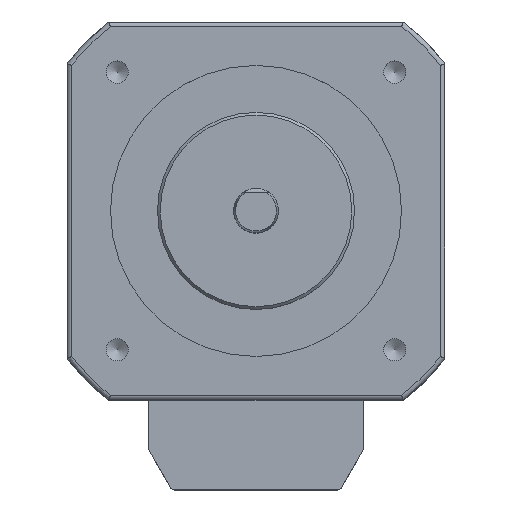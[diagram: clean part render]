
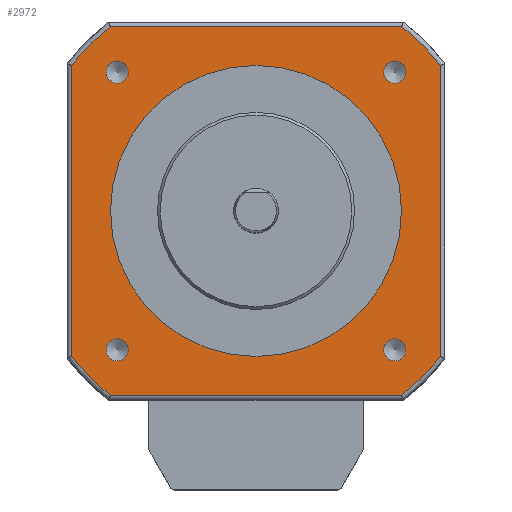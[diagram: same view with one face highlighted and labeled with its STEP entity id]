
A CAD part, top view. The second image highlights one B-rep face of the part: STEP entity #2972.
In plain terms, the highlighted planar face has unit normal (0, 0, 1).
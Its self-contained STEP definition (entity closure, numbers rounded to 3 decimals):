
#2243=CARTESIAN_POINT('',(0.,16.25,40.));
#2244=VERTEX_POINT('',#2243);
#2245=CARTESIAN_POINT('',(0.,0.,40.));
#2246=DIRECTION('',(0.,1.,-0.));
#2247=DIRECTION('',(0.,0.,1.));
#2248=AXIS2_PLACEMENT_3D('',#2245,#2247,#2246);
#2249=CIRCLE('',#2248,16.25);
#2250=EDGE_CURVE('',#2244,#2244,#2249,.T.);
#2512=CARTESIAN_POINT('',(16.268,-20.601,40.));
#2513=VERTEX_POINT('',#2512);
#2521=CARTESIAN_POINT('',(-16.269,-20.6,40.));
#2522=VERTEX_POINT('',#2521);
#2523=CARTESIAN_POINT('',(-16.269,-20.6,40.));
#2524=DIRECTION('',(1.,0.,0.));
#2525=VECTOR('',#2524,32.537);
#2526=LINE('',#2523,#2525);
#2527=EDGE_CURVE('',#2522,#2513,#2526,.T.);
#2585=CARTESIAN_POINT('',(20.6,-16.269,40.));
#2586=VERTEX_POINT('',#2585);
#2594=CARTESIAN_POINT('',(16.268,-20.601,40.));
#2595=CARTESIAN_POINT('',(16.342,-20.542,40.));
#2596=CARTESIAN_POINT('',(16.695,-20.261,40.));
#2597=CARTESIAN_POINT('',(17.311,-19.738,40.));
#2598=CARTESIAN_POINT('',(17.979,-19.131,40.));
#2599=CARTESIAN_POINT('',(18.563,-18.563,40.));
#2600=CARTESIAN_POINT('',(19.131,-17.979,40.));
#2601=CARTESIAN_POINT('',(19.738,-17.311,40.));
#2602=CARTESIAN_POINT('',(20.261,-16.695,40.));
#2603=CARTESIAN_POINT('',(20.542,-16.342,40.));
#2604=CARTESIAN_POINT('',(20.6,-16.269,40.));
#2605=B_SPLINE_CURVE_WITH_KNOTS('',2,(#2594,#2595,#2596,#2597,#2598,#2599,#2600,#2601,#2602,#2603,#2604),.UNSPECIFIED.,.F.,.U.,(3,1,1,1,1,1,1,1,1,3),(0.105,0.129,0.221,0.337,0.453,0.547,0.663,0.779,0.871,0.895),.UNSPECIFIED.);
#2606=EDGE_CURVE('',#2513,#2586,#2605,.T.);
#2618=CARTESIAN_POINT('',(20.601,16.267,40.));
#2619=VERTEX_POINT('',#2618);
#2627=CARTESIAN_POINT('',(20.6,-16.269,40.));
#2628=DIRECTION('',(0.,1.,0.));
#2629=VECTOR('',#2628,32.536);
#2630=LINE('',#2627,#2629);
#2631=EDGE_CURVE('',#2586,#2619,#2630,.T.);
#2687=CARTESIAN_POINT('',(16.269,20.6,40.));
#2688=VERTEX_POINT('',#2687);
#2696=CARTESIAN_POINT('',(20.602,16.267,40.));
#2697=CARTESIAN_POINT('',(20.543,16.341,40.));
#2698=CARTESIAN_POINT('',(20.261,16.695,40.));
#2699=CARTESIAN_POINT('',(19.738,17.311,40.));
#2700=CARTESIAN_POINT('',(19.131,17.979,40.));
#2701=CARTESIAN_POINT('',(18.563,18.563,40.));
#2702=CARTESIAN_POINT('',(17.979,19.131,40.));
#2703=CARTESIAN_POINT('',(17.311,19.738,40.));
#2704=CARTESIAN_POINT('',(16.695,20.261,40.));
#2705=CARTESIAN_POINT('',(16.342,20.542,40.));
#2706=CARTESIAN_POINT('',(16.269,20.6,40.));
#2707=B_SPLINE_CURVE_WITH_KNOTS('',2,(#2696,#2697,#2698,#2699,#2700,#2701,#2702,#2703,#2704,#2705,#2706),.UNSPECIFIED.,.F.,.U.,(3,1,1,1,1,1,1,1,1,3),(0.104,0.129,0.221,0.337,0.453,0.547,0.663,0.779,0.871,0.895),.UNSPECIFIED.);
#2708=EDGE_CURVE('',#2619,#2688,#2707,.T.);
#2720=CARTESIAN_POINT('',(-16.267,20.601,40.));
#2721=VERTEX_POINT('',#2720);
#2729=CARTESIAN_POINT('',(16.269,20.6,40.));
#2730=DIRECTION('',(-1.,0.,0.));
#2731=VECTOR('',#2730,32.536);
#2732=LINE('',#2729,#2731);
#2733=EDGE_CURVE('',#2688,#2721,#2732,.T.);
#2789=CARTESIAN_POINT('',(-20.6,16.269,40.));
#2790=VERTEX_POINT('',#2789);
#2798=CARTESIAN_POINT('',(-16.267,20.602,40.));
#2799=CARTESIAN_POINT('',(-16.341,20.543,40.));
#2800=CARTESIAN_POINT('',(-16.695,20.261,40.));
#2801=CARTESIAN_POINT('',(-17.311,19.738,40.));
#2802=CARTESIAN_POINT('',(-17.979,19.131,40.));
#2803=CARTESIAN_POINT('',(-18.563,18.563,40.));
#2804=CARTESIAN_POINT('',(-19.131,17.979,40.));
#2805=CARTESIAN_POINT('',(-19.738,17.311,40.));
#2806=CARTESIAN_POINT('',(-20.261,16.695,40.));
#2807=CARTESIAN_POINT('',(-20.542,16.342,40.));
#2808=CARTESIAN_POINT('',(-20.6,16.269,40.));
#2809=B_SPLINE_CURVE_WITH_KNOTS('',2,(#2798,#2799,#2800,#2801,#2802,#2803,#2804,#2805,#2806,#2807,#2808),.UNSPECIFIED.,.F.,.U.,(3,1,1,1,1,1,1,1,1,3),(0.104,0.129,0.221,0.337,0.453,0.547,0.663,0.779,0.871,0.895),.UNSPECIFIED.);
#2810=EDGE_CURVE('',#2721,#2790,#2809,.T.);
#2822=CARTESIAN_POINT('',(-20.601,-16.267,40.));
#2823=VERTEX_POINT('',#2822);
#2831=CARTESIAN_POINT('',(-20.6,16.269,40.));
#2832=DIRECTION('',(0.,-1.,0.));
#2833=VECTOR('',#2832,32.536);
#2834=LINE('',#2831,#2833);
#2835=EDGE_CURVE('',#2790,#2823,#2834,.T.);
#2892=CARTESIAN_POINT('',(-20.602,-16.267,40.));
#2893=CARTESIAN_POINT('',(-20.543,-16.341,40.));
#2894=CARTESIAN_POINT('',(-20.261,-16.695,40.));
#2895=CARTESIAN_POINT('',(-19.738,-17.311,40.));
#2896=CARTESIAN_POINT('',(-19.131,-17.979,40.));
#2897=CARTESIAN_POINT('',(-18.563,-18.563,40.));
#2898=CARTESIAN_POINT('',(-17.979,-19.131,40.));
#2899=CARTESIAN_POINT('',(-17.311,-19.738,40.));
#2900=CARTESIAN_POINT('',(-16.695,-20.261,40.));
#2901=CARTESIAN_POINT('',(-16.342,-20.542,40.));
#2902=CARTESIAN_POINT('',(-16.269,-20.6,40.));
#2903=B_SPLINE_CURVE_WITH_KNOTS('',2,(#2892,#2893,#2894,#2895,#2896,#2897,#2898,#2899,#2900,#2901,#2902),.UNSPECIFIED.,.F.,.U.,(3,1,1,1,1,1,1,1,1,3),(0.104,0.129,0.221,0.337,0.453,0.547,0.663,0.779,0.871,0.895),.UNSPECIFIED.);
#2904=EDGE_CURVE('',#2823,#2522,#2903,.T.);
#2910=CARTESIAN_POINT('',(0.,-0.649,40.));
#2911=DIRECTION('',(1.,0.,0.));
#2912=DIRECTION('',(0.,-0.,1.));
#2913=AXIS2_PLACEMENT_3D('',#2910,#2912,#2911);
#2914=PLANE('',#2913);
#2915=ORIENTED_EDGE('',*,*,#2527,.T.);
#2916=ORIENTED_EDGE('',*,*,#2606,.T.);
#2917=ORIENTED_EDGE('',*,*,#2631,.T.);
#2918=ORIENTED_EDGE('',*,*,#2708,.T.);
#2919=ORIENTED_EDGE('',*,*,#2733,.T.);
#2920=ORIENTED_EDGE('',*,*,#2810,.T.);
#2921=ORIENTED_EDGE('',*,*,#2835,.T.);
#2922=ORIENTED_EDGE('',*,*,#2904,.T.);
#2923=EDGE_LOOP('',(#2915,#2916,#2917,#2918,#2919,#2920,#2921,#2922));
#2924=FACE_OUTER_BOUND('',#2923,.T.);
#2925=ORIENTED_EDGE('',*,*,#2250,.F.);
#2926=EDGE_LOOP('',(#2925));
#2927=FACE_BOUND('',#2926,.T.);
#2928=CARTESIAN_POINT('',(16.75,-15.5,40.));
#2929=VERTEX_POINT('',#2928);
#2930=CARTESIAN_POINT('',(15.5,-15.5,40.));
#2931=DIRECTION('',(1.,0.,-0.));
#2932=DIRECTION('',(0.,-0.,-1.));
#2933=AXIS2_PLACEMENT_3D('',#2930,#2932,#2931);
#2934=CIRCLE('',#2933,1.25);
#2935=EDGE_CURVE('',#2929,#2929,#2934,.T.);
#2936=ORIENTED_EDGE('E236',*,*,#2935,.T.);
#2937=EDGE_LOOP('',(#2936));
#2938=FACE_BOUND('',#2937,.T.);
#2939=CARTESIAN_POINT('',(-14.25,-15.5,40.));
#2940=VERTEX_POINT('',#2939);
#2941=CARTESIAN_POINT('',(-15.5,-15.5,40.));
#2942=DIRECTION('',(1.,0.,-0.));
#2943=DIRECTION('',(0.,0.,-1.));
#2944=AXIS2_PLACEMENT_3D('',#2941,#2943,#2942);
#2945=CIRCLE('',#2944,1.25);
#2946=EDGE_CURVE('',#2940,#2940,#2945,.T.);
#2947=ORIENTED_EDGE('E243',*,*,#2946,.T.);
#2948=EDGE_LOOP('',(#2947));
#2949=FACE_BOUND('',#2948,.T.);
#2950=CARTESIAN_POINT('',(16.75,15.5,40.));
#2951=VERTEX_POINT('',#2950);
#2952=CARTESIAN_POINT('',(15.5,15.5,40.));
#2953=DIRECTION('',(1.,0.,-0.));
#2954=DIRECTION('',(0.,-0.,-1.));
#2955=AXIS2_PLACEMENT_3D('',#2952,#2954,#2953);
#2956=CIRCLE('',#2955,1.25);
#2957=EDGE_CURVE('',#2951,#2951,#2956,.T.);
#2958=ORIENTED_EDGE('E229',*,*,#2957,.T.);
#2959=EDGE_LOOP('',(#2958));
#2960=FACE_BOUND('',#2959,.T.);
#2961=CARTESIAN_POINT('',(-14.25,15.5,40.));
#2962=VERTEX_POINT('',#2961);
#2963=CARTESIAN_POINT('',(-15.5,15.5,40.));
#2964=DIRECTION('',(1.,0.,-0.));
#2965=DIRECTION('',(0.,-0.,-1.));
#2966=AXIS2_PLACEMENT_3D('',#2963,#2965,#2964);
#2967=CIRCLE('',#2966,1.25);
#2968=EDGE_CURVE('',#2962,#2962,#2967,.T.);
#2969=ORIENTED_EDGE('E222',*,*,#2968,.T.);
#2970=EDGE_LOOP('',(#2969));
#2971=FACE_BOUND('',#2970,.T.);
#2972=ADVANCED_FACE('F50',(#2924,#2927,#2938,#2949,#2960,#2971),#2914,.T.);
